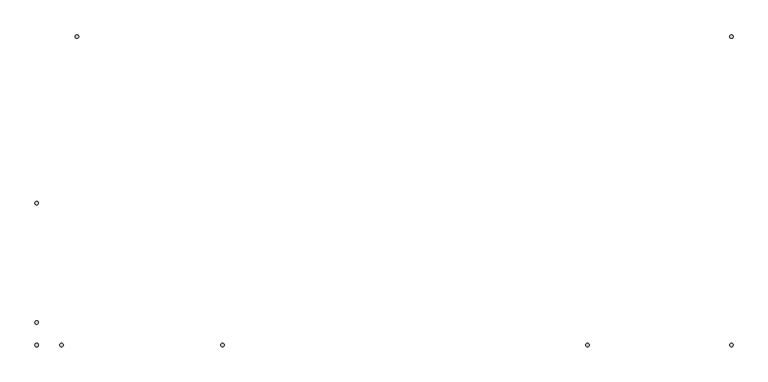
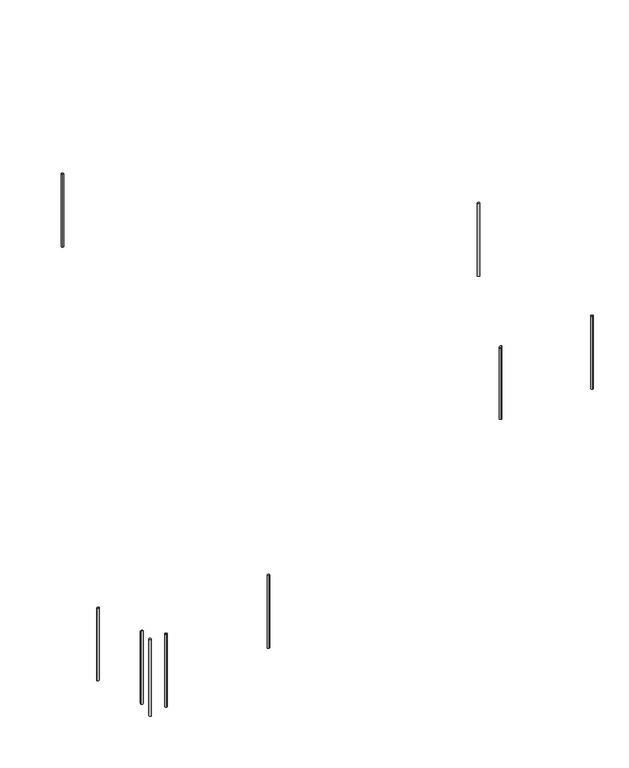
"""IFC4 building model written with IfcOpenShell, lengths in millimetres: railing geometry, r パイプ H900."""

from ifc_helpers import new_model, si_unit, point, frame, frame_2d, origin, place, context, project, spatial, circle_curve, ellipse_curve, trimmed, segment, composite_curve, outline, extrude, source, transform, mapped, element, save
from ifc_brep_helpers import plane_surface, cylinder_surface, advanced_brep


def railing_788aefdd(model_context):
    return source(origin(), model_context, "Body", "SolidModel", [
        extrude(outline(composite_curve([segment(trimmed(circle_curve(frame_2d((1729.0215975, 16024.6868987)), 12.5), [point((1716.5215975, 16024.6868987))], [point((1741.5215975, 16024.6868987))], False, "CARTESIAN"), True, "CONTINUOUS"), segment(trimmed(circle_curve(frame_2d((1729.0215975, 16024.6868987)), 12.5), [point((1741.5215975, 16024.6868987))], [point((1716.5215975, 16024.6868987))], False, "CARTESIAN"), True, "CONTINUOUS")], self_intersect=False)), frame((0.0, 0.0, 2620.0), z_axis=(0.0, 0.0, 1.0), x_axis=(1.0, 0.0, 0.0)), (0.0, 0.0, 1.0), 860.0),
        extrude(outline(composite_curve([segment(trimmed(circle_curve(frame_2d((1729.0215975, 13824.6868987)), 12.5), [point((1729.0215975, 13837.1868987))], [point((1729.0215975, 13812.1868987))], False, "CARTESIAN"), True, "CONTINUOUS"), segment(trimmed(circle_curve(frame_2d((1729.0215975, 13824.6868987)), 12.5), [point((1729.0215975, 13812.1868987))], [point((1729.0215975, 13837.1868987))], False, "CARTESIAN"), True, "CONTINUOUS")], self_intersect=False)), frame((0.0, 0.0, 2620.0), z_axis=(0.0, 0.0, 1.0), x_axis=(1.0, 0.0, 0.0)), (0.0, 0.0, 1.0), 860.0),
        advanced_brep(
        [(704.0215975, 13812.1868987, 3471.3495745), (704.0215975, 13812.1868987, 2620.0), (704.0215975, 13837.1868987, 2620.0), (704.0215975, 13837.1868987, 3471.3495745)],
        [
            (0, 1),
            (1, 2, circle_curve(frame((704.0215975, 13824.6868987, 2620.0), z_axis=(0.0, 0.0, 1.0), x_axis=(0.0, 1.0, 0.0)), 12.5)),
            (2, 3),
            (3, 0, ellipse_curve(frame((704.0215975, 13824.6868987, 3471.3495745), z_axis=(0.569209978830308, 0.0, -0.8221921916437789), x_axis=(0.8221921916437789, 0.0, 0.5692099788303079)), 15.203258, 12.5)),
            (0, 3, ellipse_curve(frame((704.0215975, 13824.6868987, 3471.3495745), z_axis=(0.569209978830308, 0.0, -0.8221921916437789), x_axis=(0.8221921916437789, 0.0, 0.5692099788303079)), 15.203258, 12.5)),
            (2, 1, circle_curve(frame((704.0215975, 13824.6868987, 2620.0), z_axis=(0.0, 0.0, 1.0), x_axis=(0.0, 1.0, 0.0)), 12.5)),
        ],
        [
            cylinder_surface(frame((704.0215975, 13824.6868987, 2520.0), z_axis=(0.0, 0.0, 1.0), x_axis=(0.0, 1.0, 0.0)), 12.5),
            plane_surface(frame((729.0215975, 13849.6868987, 3488.6572668), z_axis=(-0.569209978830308, 0.0, 0.8221921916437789), x_axis=(0.0, -1.0, 0.0))),
            plane_surface(frame((679.0215975, 13849.6868987, 2620.0), z_axis=(0.0, 0.0, -1.0), x_axis=(0.0, -1.0, 0.0))),
        ],
        [
            (0, [[1, 2, 3, 4]]),
            (0, [[-1, 5, -3, 6]]),
            (1, [[-4, -5]]),
            (2, [[-2, -6]]),
        ],
    ),
        advanced_brep(
        [(-1895.9784025, 13812.1868987, 1678.6994768), (-1895.9784025, 13812.1868987, 820.0), (-1895.9784025, 13837.1868987, 820.0), (-1895.9784025, 13837.1868987, 1678.6994768)],
        [
            (0, 1),
            (1, 2, circle_curve(frame((-1895.9784025, 13824.6868987, 820.0), z_axis=(0.0, 0.0, 1.0), x_axis=(0.0, 1.0, 0.0)), 12.5)),
            (2, 3),
            (3, 0, ellipse_curve(frame((-1895.9784025, 13824.6868987, 1678.6994768), z_axis=(0.2489718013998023, 0.0, -0.9685107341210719), x_axis=(0.968510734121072, 0.0, 0.2489718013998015)), 12.9064135, 12.5)),
            (0, 3, ellipse_curve(frame((-1895.9784025, 13824.6868987, 1678.6994768), z_axis=(0.2489718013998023, 0.0, -0.9685107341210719), x_axis=(0.968510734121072, 0.0, 0.2489718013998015)), 12.9064135, 12.5)),
            (2, 1, circle_curve(frame((-1895.9784025, 13824.6868987, 820.0), z_axis=(0.0, 0.0, 1.0), x_axis=(0.0, 1.0, 0.0)), 12.5)),
        ],
        [
            cylinder_surface(frame((-1895.9784025, 13824.6868987, 720.0), z_axis=(0.0, 0.0, 1.0), x_axis=(0.0, 1.0, 0.0)), 12.5),
            plane_surface(frame((-1870.9784025, 13849.6868987, 1685.1261429), z_axis=(-0.2489718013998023, 0.0, 0.9685107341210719), x_axis=(0.0, -1.0, 0.0))),
            plane_surface(frame((-1920.9784025, 13849.6868987, 820.0), z_axis=(0.0, 0.0, -1.0), x_axis=(0.0, -1.0, 0.0))),
        ],
        [
            (0, [[1, 2, 3, 4]]),
            (0, [[-1, 5, -3, 6]]),
            (1, [[-4, -5]]),
            (2, [[-2, -6]]),
        ],
    ),
        extrude(outline(composite_curve([segment(trimmed(circle_curve(frame_2d((-3042.8169557, 13824.6868987)), 12.5), [point((-3042.8169557, 13837.1868987))], [point((-3042.8169557, 13812.1868987))], False, "CARTESIAN"), True, "CONTINUOUS"), segment(trimmed(circle_curve(frame_2d((-3042.8169557, 13824.6868987)), 12.5), [point((-3042.8169557, 13812.1868987))], [point((-3042.8169557, 13837.1868987))], False, "CARTESIAN"), True, "CONTINUOUS")], self_intersect=False)), frame((0.0, 0.0, 525.1860651), z_axis=(0.0, 0.0, 1.0), x_axis=(1.0, 0.0, 0.0)), (0.0, 0.0, 1.0), 860.0),
        extrude(outline(composite_curve([segment(trimmed(circle_curve(frame_2d((-3220.9784025, 13824.6868987)), 12.5), [point((-3208.4784025, 13824.6868987))], [point((-3233.4784025, 13824.6868987))], False, "CARTESIAN"), True, "CONTINUOUS"), segment(trimmed(circle_curve(frame_2d((-3220.9784025, 13824.6868987)), 12.5), [point((-3233.4784025, 13824.6868987))], [point((-3208.4784025, 13824.6868987))], False, "CARTESIAN"), True, "CONTINUOUS")], self_intersect=False)), frame((0.0, 0.0, 479.3867004), z_axis=(0.0, 0.0, 1.0), x_axis=(1.0, 0.0, 0.0)), (0.0, 0.0, 1.0), 905.7993647),
        advanced_brep(
        [(-3233.4784025, 13986.0157627, 1383.6054442), (-3233.4784025, 13986.0157627, 525.1860651), (-3208.4784025, 13986.0157627, 525.1860651), (-3208.4784025, 13986.0157627, 1383.6054442)],
        [
            (0, 1),
            (1, 2, circle_curve(frame((-3220.9784025, 13986.0157627, 525.1860651), z_axis=(0.0, 0.0, 1.0), x_axis=(1.0, 0.0, 0.0)), 12.5)),
            (2, 3),
            (3, 0, ellipse_curve(frame((-3220.9784025, 13986.0157627, 1383.6054442), z_axis=(0.0, -0.2730966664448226, -0.9619865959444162), x_axis=(0.0, -0.9619865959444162, 0.2730966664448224)), 12.993944, 12.5)),
            (0, 3, ellipse_curve(frame((-3220.9784025, 13986.0157627, 1383.6054442), z_axis=(0.0, -0.2730966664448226, -0.9619865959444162), x_axis=(0.0, -0.9619865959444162, 0.2730966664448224)), 12.993944, 12.5)),
            (2, 1, circle_curve(frame((-3220.9784025, 13986.0157627, 525.1860651), z_axis=(0.0, 0.0, 1.0), x_axis=(1.0, 0.0, 0.0)), 12.5)),
        ],
        [
            cylinder_surface(frame((-3220.9784025, 13986.0157627, 425.1860651), z_axis=(0.0, 0.0, 1.0), x_axis=(1.0, 0.0, 0.0)), 12.5),
            plane_surface(frame((-3195.9784025, 13961.0157627, 1390.7026498), z_axis=(0.0, 0.2730966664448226, 0.9619865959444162), x_axis=(-1.0, 0.0, 0.0))),
            plane_surface(frame((-3195.9784025, 14011.0157627, 525.1860651), z_axis=(0.0, 0.0, -1.0), x_axis=(-1.0, 0.0, 0.0))),
        ],
        [
            (0, [[1, 2, 3, 4]]),
            (0, [[-1, 5, -3, 6]]),
            (1, [[-4, -5]]),
            (2, [[-2, -6]]),
        ],
    ),
        extrude(outline(composite_curve([segment(trimmed(circle_curve(frame_2d((-2933.7918036, 16024.6868987)), 12.5), [point((-2933.7918036, 16012.1868987))], [point((-2933.7918036, 16037.1868987))], False, "CARTESIAN"), True, "CONTINUOUS"), segment(trimmed(circle_curve(frame_2d((-2933.7918036, 16024.6868987)), 12.5), [point((-2933.7918036, 16037.1868987))], [point((-2933.7918036, 16012.1868987))], False, "CARTESIAN"), True, "CONTINUOUS")], self_intersect=False)), frame((0.0, 0.0, 4600.0), z_axis=(0.0, 0.0, 1.0), x_axis=(1.0, 0.0, 0.0)), (0.0, 0.0, 1.0), 860.0),
        advanced_brep(
        [(-3233.4784025, 14837.5002998, 1141.879011), (-3233.4784025, 14837.5002998, 283.4596319), (-3208.4784025, 14837.5002998, 283.4596319), (-3208.4784025, 14837.5002998, 1141.879011)],
        [
            (0, 1),
            (1, 2, circle_curve(frame((-3220.9784025, 14837.5002998, 283.4596319), z_axis=(0.0, 0.0, 1.0), x_axis=(1.0, 0.0, 0.0)), 12.5)),
            (2, 3),
            (3, 0, ellipse_curve(frame((-3220.9784025, 14837.5002998, 1141.879011), z_axis=(0.0, -0.2730966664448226, -0.9619865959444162), x_axis=(0.0, -0.9619865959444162, 0.2730966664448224)), 12.993944, 12.5)),
            (0, 3, ellipse_curve(frame((-3220.9784025, 14837.5002998, 1141.879011), z_axis=(0.0, -0.2730966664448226, -0.9619865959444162), x_axis=(0.0, -0.9619865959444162, 0.2730966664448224)), 12.993944, 12.5)),
            (2, 1, circle_curve(frame((-3220.9784025, 14837.5002998, 283.4596319), z_axis=(0.0, 0.0, 1.0), x_axis=(1.0, 0.0, 0.0)), 12.5)),
        ],
        [
            cylinder_surface(frame((-3220.9784025, 14837.5002998, 183.4596319), z_axis=(0.0, 0.0, 1.0), x_axis=(1.0, 0.0, 0.0)), 12.5),
            plane_surface(frame((-3195.9784025, 14812.5002998, 1148.9762166), z_axis=(0.0, 0.2730966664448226, 0.9619865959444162), x_axis=(-1.0, 0.0, 0.0))),
            plane_surface(frame((-3195.9784025, 14862.5002998, 283.4596319), z_axis=(0.0, 0.0, -1.0), x_axis=(-1.0, 0.0, 0.0))),
        ],
        [
            (0, [[1, 2, 3, 4]]),
            (0, [[-1, 5, -3, 6]]),
            (1, [[-4, -5]]),
            (2, [[-2, -6]]),
        ],
    ),
    ])


if __name__ == "__main__":
    model = new_model("IFC4")
    model_context = context("Model", 3, world=origin())
    ifc_project = project(units=[si_unit("LENGTHUNIT", "METRE", prefix="MILLI")], contexts=[model_context])
    site = spatial("IfcSite", under=ifc_project)
    building = spatial("IfcBuilding", under=site)
    placement = place(None, origin())
    railing_shape = railing_788aefdd(model_context)
    element("IfcRailing", 1, ObjectType="r パイプ H900", at=placement, inside=building, context=model_context, shape_type="MappedRepresentation", body=[
        mapped(railing_shape, transform((0.0, 0.0, 0.0), x_axis=(1.0, 0.0, 0.0), y_axis=(0.0, 1.0, 0.0), z_axis=(0.0, 0.0, 1.0))),
    ])
    save(model, "model.ifc")
